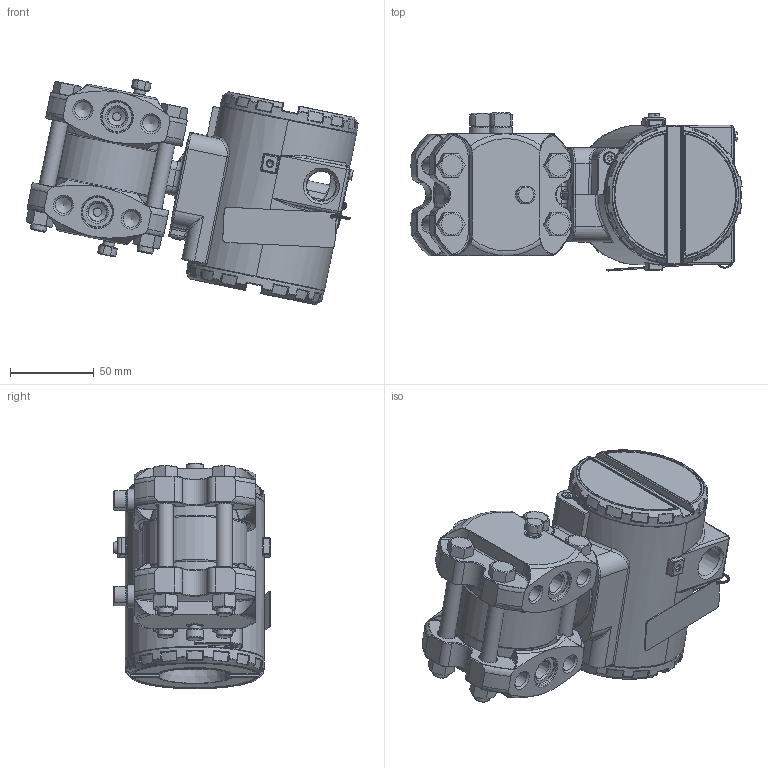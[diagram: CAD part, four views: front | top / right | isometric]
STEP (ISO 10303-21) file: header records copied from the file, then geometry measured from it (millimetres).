
FILE_DESCRIPTION(/* description */ (''),/* implementation_level */ '2;1');
FILE_NAME(/* name */ 'F:\Area\Desenvolvimento_2\Projects\Sensor\projetos\LD30X\montagens 3d - clientes\LD30XH5 1-4NPT Monel purga acima.stp',/* time_stamp */ '2023-01-26T13:23:53-03:00',/* author */ ('inventor02'),/* organization */ (''),/* preprocessor_version */ 'ST-DEVELOPER v17',/* originating_system */ 'Autodesk Inventor 2019',/* authorisation */ '');
FILE_SCHEMA (('CONFIG_CONTROL_DESIGN'));
Products named in the file (29): LD30XD5 1-4NPT Monel purga acima; diferencial FX5 monel purga acima; involucro fx5 apos a usinagem final; bujao 1-4NPT; 081-C-0500-10 monel barra 7-16 purga M8; Paraf. 3-8 x 16 UNC; Porca 3-8 x 16 UNC; Sangria; carcaça vazia com tampas e plaqueta; carcaça LD inox sem letras; Subconjunto plaqueta 300; Plaqueta transmissor; Parafuso da Plaqueta; Rebite da Plaqueta; 096-A-0169-03; 101-A-0502-01; Chapa aterramento externo; ISO 1207 - M4 x 8; DIN 915 - M6 x 10; ANSI B18.3.1M - M4x0,7 x 8; Subconjunto tampa com visor aluminio; tampa pintada; VIDRO DO VISOR; oring 41x1 vidro tampa; Trava do vidro da tampa com visor; trava do vidro VH256; Subconjunto tampa sem visor-aluminio; tampa cega 300 pintada p0; 00034775-0
Assembly tree (39 placements, depth 4):
  LD30XD5 1-4NPT Monel purga acima
    diferencial FX5 monel purga acima
      involucro fx5 apos a usinagem final
      bujao 1-4NPT  x2
      081-C-0500-10 monel barra 7-16 purga M8  x2
      Paraf. 3-8 x 16 UNC  x4
      Porca 3-8 x 16 UNC  x4
      Sangria  x2
    carcaça vazia com tampas e plaqueta
      carcaça LD inox sem letras
      Subconjunto plaqueta 300
        Plaqueta transmissor
        Parafuso da Plaqueta
        Rebite da Plaqueta
        096-A-0169-03
        101-A-0502-01
      Chapa aterramento externo
      ISO 1207 - M4 x 8
      DIN 915 - M6 x 10
      ANSI B18.3.1M - M4x0,7 x 8  x2
      Subconjunto tampa com visor aluminio
        tampa pintada
        VIDRO DO VISOR
        oring 41x1 vidro tampa
        Trava do vidro da tampa com visor
        trava do vidro VH256
        00034775-0
      Subconjunto tampa sem visor-aluminio
        tampa cega 300 pintada p0
        00034775-0
Bounding box: 197.88 x 94.1 x 134.46 mm (x, y, z)
Volume: 641243.3 mm3; surface area: 237454.2 mm2
Topology: 34 solids, 34 shells, 2264 faces, 5503 edges, 3275 vertices
Faces by surface type: bspline 591, cylinder 499, plane 448, torus 350, cone 273, sphere 103
Full cylindrical faces by diameter (mm): 2 x2, 2.1 x2, 2.459 x5, 2.642 x1, 2.7 x1, 3 x5, 3.242 x4, 3.5 x4, 3.571 x1, 4 x4, 4.3 x1, 4.4 x1, 4.917 x1, 5 x4, 5.5 x2, 6 x2, 6.647 x2, 7 x6, 7.087 x2, 7.6 x2, 7.798 x4, 8 x2, 8.7 x2, 9.525 x4, 9.728 x8, 10.5 x8, 10.719 x4, 12 x2, 13.8 x2, 14 x1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
Entity records: 71454 total; most frequent: CARTESIAN_POINT 27970, ORIENTED_EDGE 9104, DIRECTION 8678, EDGE_CURVE 4552, AXIS2_PLACEMENT_3D 3813, VERTEX_POINT 2721, CIRCLE 2255, EDGE_LOOP 2017
